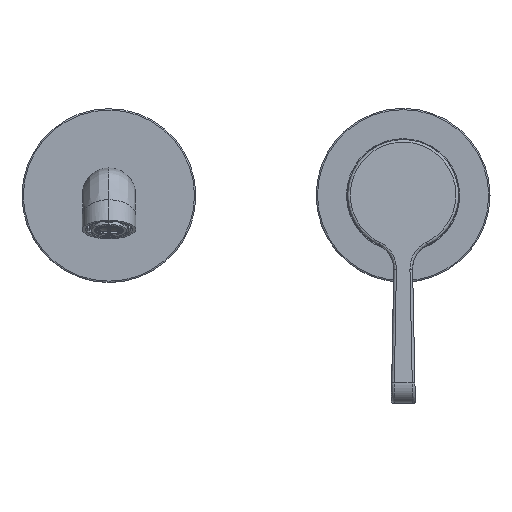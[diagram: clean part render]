
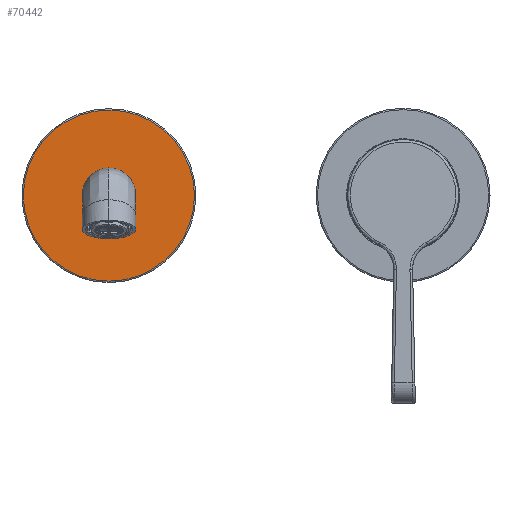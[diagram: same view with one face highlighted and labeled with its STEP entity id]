
A CAD part, top view. The second image highlights one B-rep face of the part: STEP entity #70442.
In plain terms, the highlighted planar face has unit normal (0, 0, 1).
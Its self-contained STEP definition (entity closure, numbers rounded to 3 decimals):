
#48532=CARTESIAN_POINT('',(-109.985,0.,38.4));
#48533=DIRECTION('',(0.,0.,-1.));
#48534=DIRECTION('',(-1.,-0.001,0.));
#48535=AXIS2_PLACEMENT_3D('',#48532,#48533,#48534);
#48537=CARTESIAN_POINT('',(-109.985,0.,38.4));
#48538=DIRECTION('',(0.,0.,-1.));
#48539=DIRECTION('',(1.,0.001,0.));
#48540=AXIS2_PLACEMENT_3D('',#48537,#48538,#48539);
#48542=CARTESIAN_POINT('',(-109.985,0.,
38.4));
#48543=DIRECTION('',(0.,0.,-1.));
#48544=DIRECTION('',(0.001,-1.,0.));
#48545=AXIS2_PLACEMENT_3D('',#48542,#48543,#48544);
#48547=CARTESIAN_POINT('',(-109.985,0.,
38.4));
#48548=DIRECTION('',(0.,0.,1.));
#48549=DIRECTION('',(0.001,-1.,0.));
#48550=AXIS2_PLACEMENT_3D('',#48547,#48548,#48549);
#48938=CARTESIAN_POINT('',(-141.985,-0.037,38.4));
#48939=CARTESIAN_POINT('',(-77.985,0.037,38.4));
#48940=VERTEX_POINT('',#48938);
#48941=VERTEX_POINT('',#48939);
#48972=CARTESIAN_POINT('',(-109.973,-10.,
38.4));
#48973=CARTESIAN_POINT('',(-109.996,10.,
38.4));
#48974=VERTEX_POINT('',#48972);
#48975=VERTEX_POINT('',#48973);
#70426=CARTESIAN_POINT('',(-109.985,0.,38.4));
#70427=DIRECTION('',(0.,0.,1.));
#70428=DIRECTION('',(1.,0.001,0.));
#70429=AXIS2_PLACEMENT_3D('',#70426,#70427,#70428);
#70430=PLANE('',#70429);
#70432=ORIENTED_EDGE('',*,*,#70431,.T.);
#70434=ORIENTED_EDGE('',*,*,#70433,.T.);
#70435=EDGE_LOOP('',(#70432,#70434));
#70436=FACE_OUTER_BOUND('',#70435,.F.);
#70437=ORIENTED_EDGE('',*,*,#70409,.F.);
#70439=ORIENTED_EDGE('',*,*,#70438,.T.);
#70440=EDGE_LOOP('',(#70437,#70439));
#70441=FACE_BOUND('',#70440,.F.);
#48536=CIRCLE('',#48535,32.);
#48541=CIRCLE('',#48540,32.);
#48546=CIRCLE('',#48545,10.);
#48551=CIRCLE('',#48550,10.);
#70409=EDGE_CURVE('',#48974,#48975,#48546,.T.);
#70431=EDGE_CURVE('',#48940,#48941,#48536,.T.);
#70433=EDGE_CURVE('',#48941,#48940,#48541,.T.);
#70438=EDGE_CURVE('',#48974,#48975,#48551,.T.);
#70442=ADVANCED_FACE('',(#70436,#70441),#70430,.T.);
